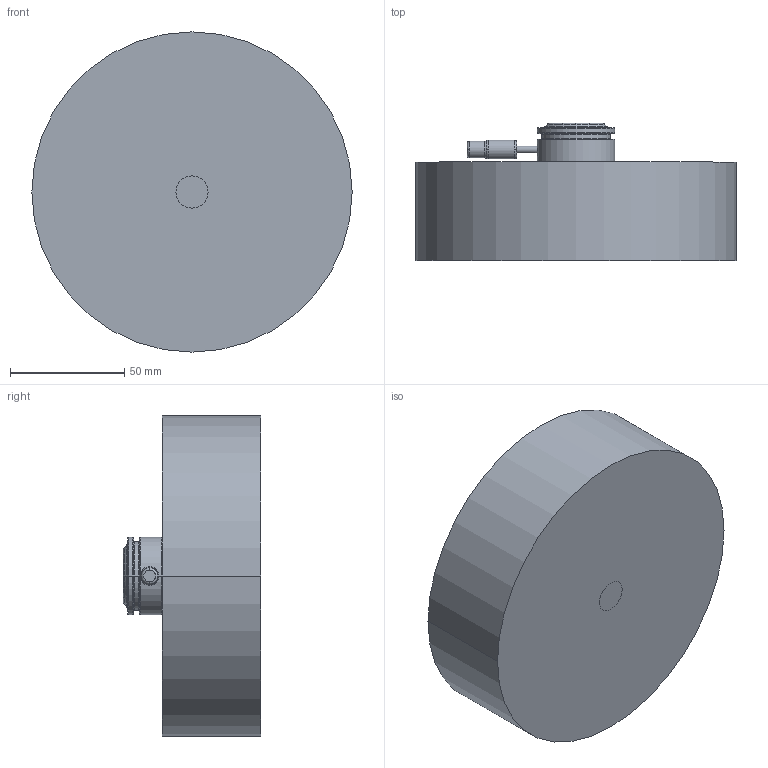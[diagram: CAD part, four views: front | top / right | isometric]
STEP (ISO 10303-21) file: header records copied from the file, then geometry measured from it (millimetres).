
FILE_DESCRIPTION((''),'2;1');
FILE_NAME('M34N101.stp','2020-09-17T12:51:23',(''),(''),'AutoCAD STEP 2000i','AutoCAD 2000i',', , ');
FILE_SCHEMA(('CONFIG_CONTROL_DESIGN'));
Length unit declared in the file: millimetre
Products named in the file (3): DRAWING1; NOZZLE M101N34; MOLD BODY N M 34
Assembly tree (2 placements, depth 2):
  DRAWING1
    NOZZLE M101N34
    MOLD BODY N M 34
Bounding box: 140 x 60 x 140 mm (x, y, z)
Volume: 672850 mm3; surface area: 59872.8 mm2
Topology: 2 solids, 2 shells, 104 faces, 247 edges, 157 vertices
Faces by surface type: cylinder 34, cone 30, plane 16, bspline 12, torus 12
Entity records: 3654 total; most frequent: CARTESIAN_POINT 1016, DIRECTION 609, ORIENTED_EDGE 490, AXIS2_PLACEMENT_3D 272, EDGE_CURVE 245, CIRCLE 177, VERTEX_POINT 157, EDGE_LOOP 118
